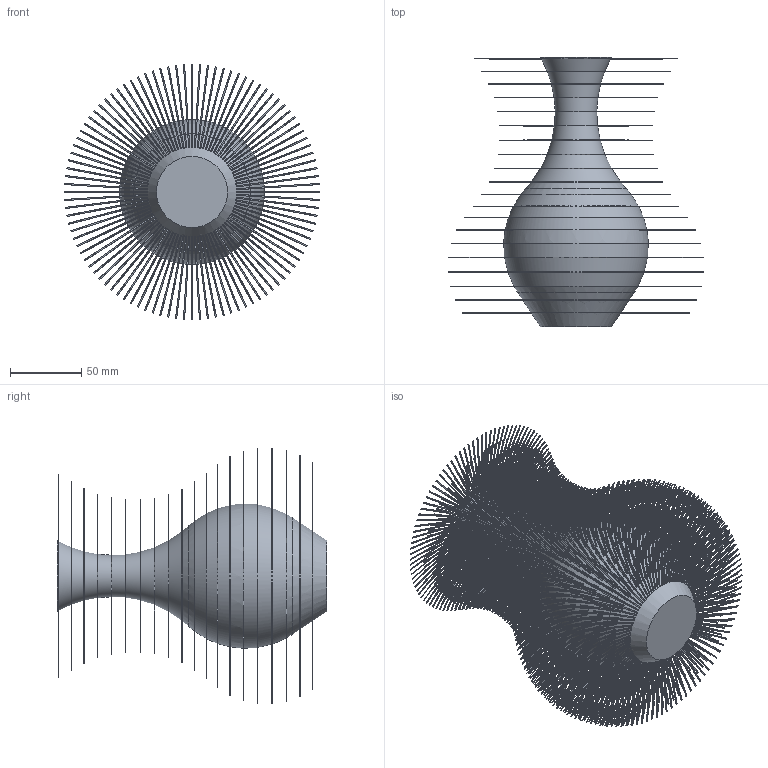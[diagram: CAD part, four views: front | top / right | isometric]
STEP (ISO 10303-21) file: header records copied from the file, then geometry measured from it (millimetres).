
FILE_DESCRIPTION(/* description */ (''),/* implementation_level */ '2;1');
FILE_NAME(/* name */ 'C:/Users/danie/Downloads/Furry_Vase v11.step',/* time_stamp */ '2016-09-30T23:26:25+02:00',/* author */ (''),/* organization */ (''),/* preprocessor_version */ 'ST-DEVELOPER v16.5',/* originating_system */ 'Autodesk Translation Framework v5.1.0.2740',/* authorisation */ '');
FILE_SCHEMA (('AUTOMOTIVE_DESIGN { 1 0 10303 214 3 1 1 }'));
Products named in the file (1): Furry_Vase v11
Bounding box: 179.35 x 190 x 179.35 mm (x, y, z)
Volume: 725517.2 mm3; surface area: 199967.1 mm2
Topology: 1 solids, 1 shells, 10005 faces, 24069 edges, 16046 vertices
Faces by surface type: plane 10002, torus 1, cone 1, bspline 1
Entity records: 291956 total; most frequent: DIRECTION 51654, CARTESIAN_POINT 50103, ORIENTED_EDGE 48062, EDGE_CURVE 24031, AXIS2_PLACEMENT_3D 17627, LINE 16400, VECTOR 16400, VERTEX_POINT 16022
